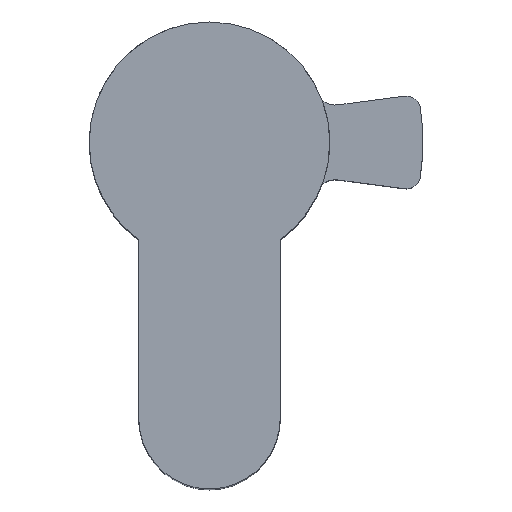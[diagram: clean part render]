
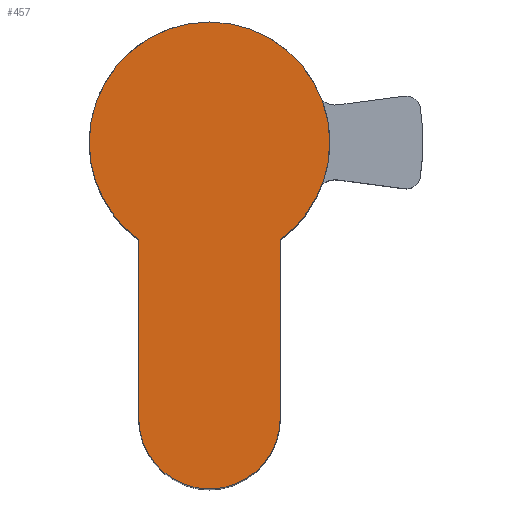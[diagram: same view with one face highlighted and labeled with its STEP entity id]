
A CAD part, top view. The second image highlights one B-rep face of the part: STEP entity #457.
In plain terms, the highlighted planar face has unit normal (0, 0, 1).
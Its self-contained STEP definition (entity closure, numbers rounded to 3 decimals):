
#16 = AXIS2_PLACEMENT_3D ( 'NONE', #247, #1431, #845 ) ;
#28 = EDGE_CURVE ( 'NONE', #324, #209, #100, .T. ) ;
#75 = DIRECTION ( 'NONE',  ( 1., 0., 0. ) ) ;
#91 = AXIS2_PLACEMENT_3D ( 'NONE', #727, #296, #75 ) ;
#93 = CARTESIAN_POINT ( 'NONE',  ( 8.5, 0., 10. ) ) ;
#100 = LINE ( 'NONE', #1180, #837 ) ;
#105 = PLANE ( 'NONE',  #1089 ) ;
#144 = CIRCLE ( 'NONE', #212, 5. ) ;
#178 = EDGE_CURVE ( 'NONE', #871, #1011, #685, .T. ) ;
#206 = EDGE_CURVE ( 'NONE', #541, #324, #144, .T. ) ;
#209 = VERTEX_POINT ( 'NONE', #231 ) ;
#212 = AXIS2_PLACEMENT_3D ( 'NONE', #1338, #462, #1324 ) ;
#223 = CARTESIAN_POINT ( 'NONE',  ( -5., -6.874, 10. ) ) ;
#229 = CARTESIAN_POINT ( 'NONE',  ( -5., -19.5, 10. ) ) ;
#231 = CARTESIAN_POINT ( 'NONE',  ( 5., -6.874, 10. ) ) ;
#245 = ORIENTED_EDGE ( 'NONE', *, *, #1501, .T. ) ;
#247 = CARTESIAN_POINT ( 'NONE',  ( 0., 0., 10. ) ) ;
#296 = DIRECTION ( 'NONE',  ( 0., 0., 1. ) ) ;
#324 = VERTEX_POINT ( 'NONE', #1125 ) ;
#457 = ADVANCED_FACE ( 'NONE', ( #565 ), #105, .T. ) ;
#462 = DIRECTION ( 'NONE',  ( 0., 0., 1. ) ) ;
#479 = ORIENTED_EDGE ( 'NONE', *, *, #28, .T. ) ;
#523 = CARTESIAN_POINT ( 'NONE',  ( -5., -6.874, 10. ) ) ;
#541 = VERTEX_POINT ( 'NONE', #229 ) ;
#562 = CIRCLE ( 'NONE', #892, 8.5 ) ;
#565 = FACE_OUTER_BOUND ( 'NONE', #1326, .T. ) ;
#685 = CIRCLE ( 'NONE', #16, 8.5 ) ;
#686 = ORIENTED_EDGE ( 'NONE', *, *, #1106, .T. ) ;
#717 = ORIENTED_EDGE ( 'NONE', *, *, #178, .T. ) ;
#727 = CARTESIAN_POINT ( 'NONE',  ( 0., 0., 10. ) ) ;
#735 = DIRECTION ( 'NONE',  ( 0., 0., 1. ) ) ;
#786 = CARTESIAN_POINT ( 'NONE',  ( 0., 0., 10. ) ) ;
#837 = VECTOR ( 'NONE', #909, 1000. ) ;
#845 = DIRECTION ( 'NONE',  ( 1., 0., 0. ) ) ;
#871 = VERTEX_POINT ( 'NONE', #93 ) ;
#892 = AXIS2_PLACEMENT_3D ( 'NONE', #1232, #735, #1247 ) ;
#909 = DIRECTION ( 'NONE',  ( 0., 1., 0. ) ) ;
#936 = VECTOR ( 'NONE', #1005, 1000. ) ;
#1005 = DIRECTION ( 'NONE',  ( 0., -1., 0. ) ) ;
#1011 = VERTEX_POINT ( 'NONE', #1485 ) ;
#1089 = AXIS2_PLACEMENT_3D ( 'NONE', #786, #1505, #1421 ) ;
#1106 = EDGE_CURVE ( 'NONE', #209, #871, #562, .T. ) ;
#1125 = CARTESIAN_POINT ( 'NONE',  ( 5., -19.5, 10. ) ) ;
#1126 = LINE ( 'NONE', #523, #936 ) ;
#1148 = ORIENTED_EDGE ( 'NONE', *, *, #1415, .T. ) ;
#1180 = CARTESIAN_POINT ( 'NONE',  ( 5., -19.5, 10. ) ) ;
#1217 = ORIENTED_EDGE ( 'NONE', *, *, #206, .T. ) ;
#1232 = CARTESIAN_POINT ( 'NONE',  ( 0., 0., 10. ) ) ;
#1247 = DIRECTION ( 'NONE',  ( 1., 0., 0. ) ) ;
#1324 = DIRECTION ( 'NONE',  ( 1., 0., 0. ) ) ;
#1326 = EDGE_LOOP ( 'NONE', ( #686, #717, #1148, #245, #1217, #479 ) ) ;
#1338 = CARTESIAN_POINT ( 'NONE',  ( 0., -19.5, 10. ) ) ;
#1415 = EDGE_CURVE ( 'NONE', #1011, #1539, #1417, .T. ) ;
#1417 = CIRCLE ( 'NONE', #91, 8.5 ) ;
#1421 = DIRECTION ( 'NONE',  ( 1., 0., 0. ) ) ;
#1431 = DIRECTION ( 'NONE',  ( 0., 0., 1. ) ) ;
#1485 = CARTESIAN_POINT ( 'NONE',  ( -8.5, 0., 10. ) ) ;
#1501 = EDGE_CURVE ( 'NONE', #1539, #541, #1126, .T. ) ;
#1505 = DIRECTION ( 'NONE',  ( 0., 0., 1. ) ) ;
#1539 = VERTEX_POINT ( 'NONE', #223 ) ;
